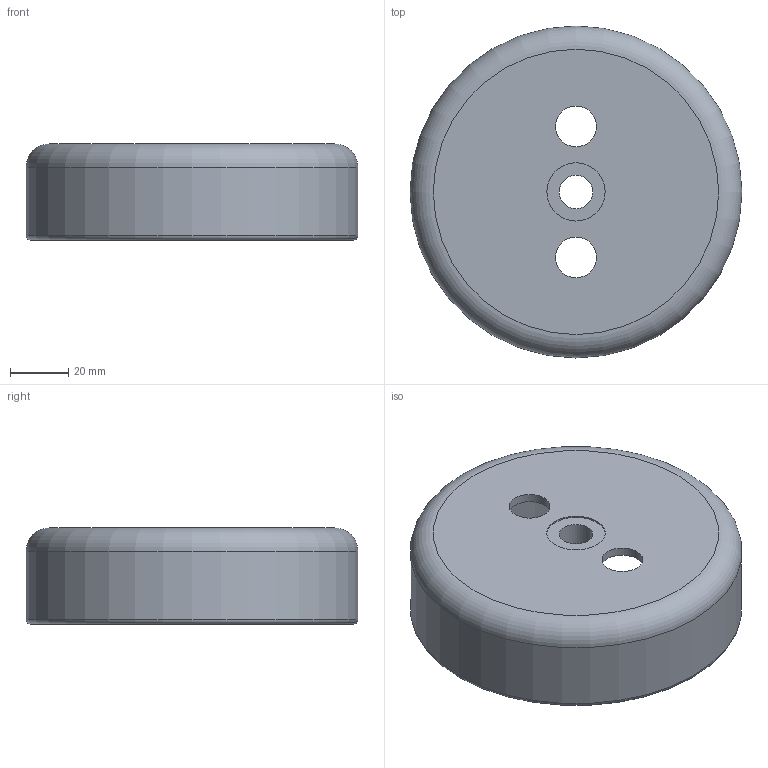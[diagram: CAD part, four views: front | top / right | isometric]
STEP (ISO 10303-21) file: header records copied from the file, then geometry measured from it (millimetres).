
FILE_DESCRIPTION(('Open CASCADE Model'),'2;1');
FILE_NAME('Open CASCADE Shape Model','2026-10-31T13:37:43',('Author'),( 'Open CASCADE'),'Open CASCADE STEP processor 7.9','Open CASCADE 7.9' ,'Unknown');
FILE_SCHEMA(('AUTOMOTIVE_DESIGN { 1 0 10303 214 1 1 1 1 }'));
Length unit declared in the file: millimetre
Products named in the file (1): Open CASCADE STEP translator 7.9 3
Bounding box: 114 x 114 x 33 mm (x, y, z)
Volume: 56803.2 mm3; surface area: 41121.8 mm2
Topology: 1 solids, 1 shells, 15 faces, 27 edges, 17 vertices
Faces by surface type: cylinder 7, plane 5, torus 3
Full cylindrical faces by diameter (mm): 11.5 x1, 14 x2, 17.5 x1, 20 x1, 108 x1, 114 x1
Entity records: 744 total; most frequent: DIRECTION 127, CARTESIAN_POINT 120, ORIENTED_EDGE 54, PCURVE 54, DEFINITIONAL_REPRESENTATION 54, LINE 41, VECTOR 41, AXIS2_PLACEMENT_3D 36
